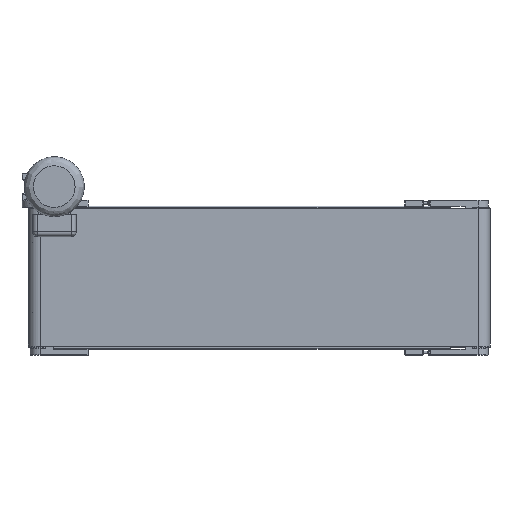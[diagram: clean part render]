
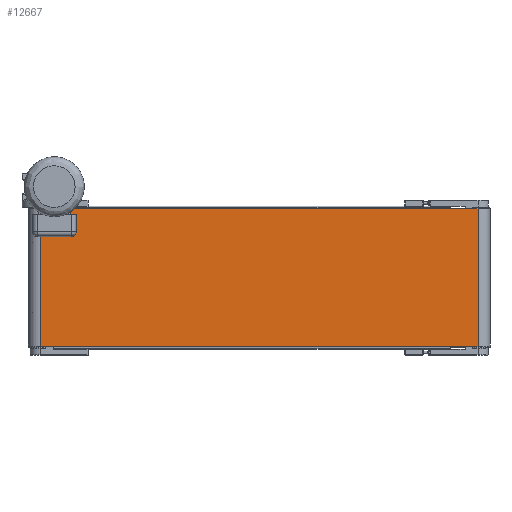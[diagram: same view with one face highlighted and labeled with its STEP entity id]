
A CAD part, top view. The second image highlights one B-rep face of the part: STEP entity #12667.
In plain terms, the highlighted planar face has unit normal (0, 0, 1).
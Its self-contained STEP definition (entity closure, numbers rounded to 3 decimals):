
#906 = LINE ( 'NONE', #28358, #25143 ) ;
#1831 = EDGE_CURVE ( 'NONE', #23868, #3107, #23950, .T. ) ;
#1956 = ORIENTED_EDGE ( 'NONE', *, *, #8250, .F. ) ;
#3107 = VERTEX_POINT ( 'NONE', #4368 ) ;
#4231 = EDGE_CURVE ( 'NONE', #13748, #3107, #19355, .T. ) ;
#4368 = CARTESIAN_POINT ( 'NONE',  ( 974., 0., 26. ) ) ;
#6260 = CARTESIAN_POINT ( 'NONE',  ( 26., 0., 26. ) ) ;
#8250 = EDGE_CURVE ( 'NONE', #18474, #13748, #906, .T. ) ;
#9480 = ORIENTED_EDGE ( 'NONE', *, *, #4231, .F. ) ;
#10110 = DIRECTION ( 'NONE',  ( -1., 0., 0. ) ) ;
#12667 = ADVANCED_FACE ( 'NONE', ( #43942 ), #12833, .F. ) ;
#12833 = PLANE ( 'NONE',  #41859 ) ;
#13748 = VERTEX_POINT ( 'NONE', #18902 ) ;
#15150 = LINE ( 'NONE', #26097, #37796 ) ;
#15651 = ORIENTED_EDGE ( 'NONE', *, *, #28465, .T. ) ;
#18402 = VECTOR ( 'NONE', #37081, 1000. ) ;
#18474 = VERTEX_POINT ( 'NONE', #32226 ) ;
#18902 = CARTESIAN_POINT ( 'NONE',  ( 974., 300., 26. ) ) ;
#19206 = DIRECTION ( 'NONE',  ( 0., -1., 0. ) ) ;
#19355 = LINE ( 'NONE', #26441, #18402 ) ;
#21052 = DIRECTION ( 'NONE',  ( 1., 0., 0. ) ) ;
#22452 = CARTESIAN_POINT ( 'NONE',  ( 26., 0., 26. ) ) ;
#23030 = VECTOR ( 'NONE', #38232, 1000. ) ;
#23868 = VERTEX_POINT ( 'NONE', #22452 ) ;
#23950 = LINE ( 'NONE', #6260, #23030 ) ;
#25143 = VECTOR ( 'NONE', #21052, 1000. ) ;
#26097 = CARTESIAN_POINT ( 'NONE',  ( 26., 300., 26. ) ) ;
#26441 = CARTESIAN_POINT ( 'NONE',  ( 974., 300., 26. ) ) ;
#27388 = CARTESIAN_POINT ( 'NONE',  ( 26., 300., 26. ) ) ;
#28358 = CARTESIAN_POINT ( 'NONE',  ( 26., 300., 26. ) ) ;
#28465 = EDGE_CURVE ( 'NONE', #18474, #23868, #15150, .T. ) ;
#29344 = ORIENTED_EDGE ( 'NONE', *, *, #1831, .T. ) ;
#32226 = CARTESIAN_POINT ( 'NONE',  ( 26., 300., 26. ) ) ;
#32302 = EDGE_LOOP ( 'NONE', ( #29344, #9480, #1956, #15651 ) ) ;
#37081 = DIRECTION ( 'NONE',  ( 0., -1., 0. ) ) ;
#37796 = VECTOR ( 'NONE', #19206, 1000. ) ;
#38232 = DIRECTION ( 'NONE',  ( 1., 0., 0. ) ) ;
#41859 = AXIS2_PLACEMENT_3D ( 'NONE', #27388, #44842, #10110 ) ;
#43942 = FACE_OUTER_BOUND ( 'NONE', #32302, .T. ) ;
#44842 = DIRECTION ( 'NONE',  ( 0., 0., -1. ) ) ;
